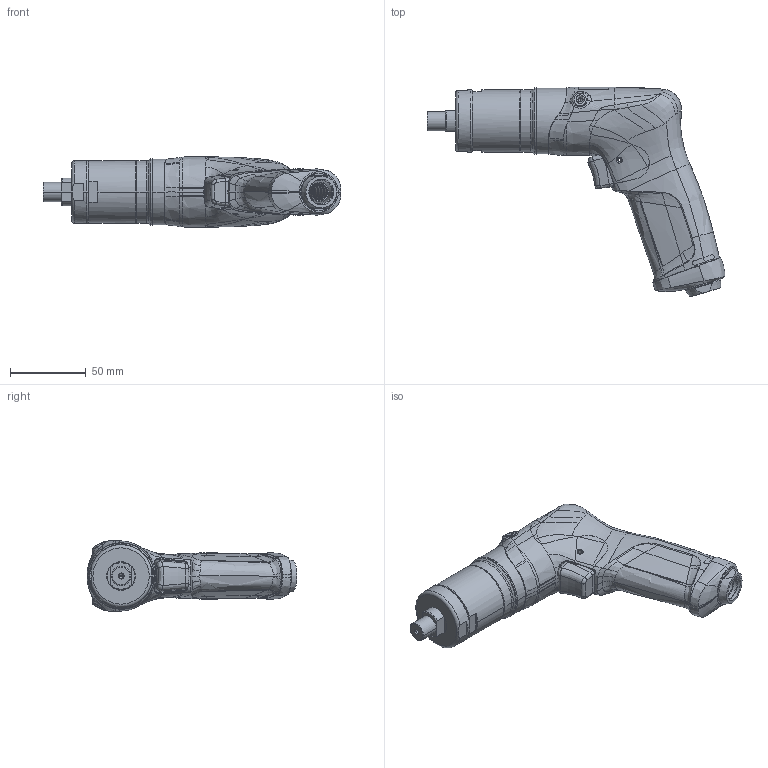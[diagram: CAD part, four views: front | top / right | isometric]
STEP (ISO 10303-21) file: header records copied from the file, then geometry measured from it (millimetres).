
FILE_DESCRIPTION((''),'2;1');
FILE_NAME('HIGH_POWERED_DRILL_LOW_SPEED__ASM','2013-03-05T',('greextfpav'),(''),'PRO/ENGINEER BY PARAMETRIC TECHNOLOGY CORPORATION, 2012300','PRO/ENGINEER BY PARAMETRIC TECHNOLOGY CORPORATION, 2012300','');
FILE_SCHEMA(('AUTOMOTIVE_DESIGN_CC2 { 1 2 10303 214 -1 1 5 2 }'));
Products named in the file (27): BE36009; 472653_SUBSTRATE; 472653_SOFTGRIP; 472653_ASM; 2050541893; 2050472673; 2050519761; 2050519771; 2050519753_ASM; 2050506373; 2050472611_ASM; 2050472763; 2050472703; 2050472713; TRIGGER_BUTTON; 472693; 472693_ASM; 203713; 280163; 2050491623_AF0; 2050472641_ASM; 2050472893; 2050472903; 473043; 2050535003; 2050535013; HIGH_POWERED_DRILL_LOW_SPEED__ASM
Assembly tree (27 placements, depth 4):
  HIGH_POWERED_DRILL_LOW_SPEED__ASM
    472653_ASM
      BE36009
      472653_SUBSTRATE
      472653_SOFTGRIP
    2050472611_ASM
      2050541893
      2050472673
      2050519753_ASM
        2050519761
        2050519771
      2050506373
    2050472763
    2050472641_ASM
      2050472703
      2050472713
      472693_ASM
        TRIGGER_BUTTON
        472693
      203713  x2
      280163
      2050491623_AF0
    2050472893
    2050472903
    473043
    2050535003
    2050535013
Bounding box: 197.34 x 138.94 x 46.78 mm (x, y, z)
Volume: 185873.5 mm3; surface area: 170555.5 mm2
Topology: 21 solids, 36 shells, 3250 faces, 8047 edges, 4788 vertices
Faces by surface type: bspline 1723, cylinder 571, plane 435, torus 259, cone 213, extrusion 31, sphere 14, revolution 4
Entity records: 236619 total; most frequent: CARTESIAN_POINT 156859, ORIENTED_EDGE 15769, DIRECTION 8239, EDGE_CURVE 7957, PRESENTATION_STYLE_ASSIGNMENT 5553, STYLED_ITEM 5553, CURVE_STYLE 5523, VERTEX_POINT 4784
